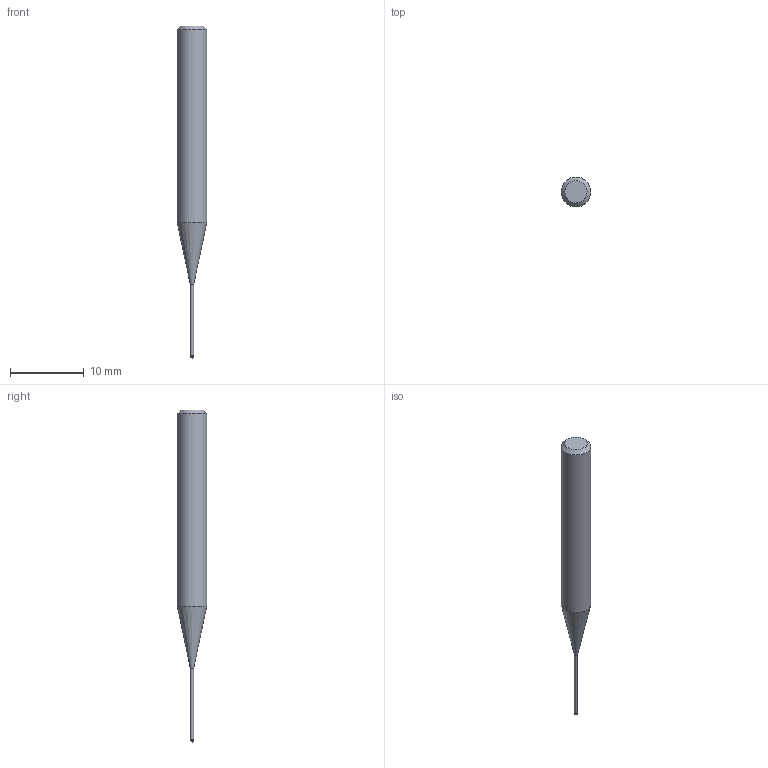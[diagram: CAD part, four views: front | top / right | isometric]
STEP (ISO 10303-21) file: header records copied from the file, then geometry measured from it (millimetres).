
FILE_DESCRIPTION((''),'2;1');
FILE_NAME('C:\Users\nsx150\AppData\Local\Temp\Mastercam 2021\ARV7HD45SN\TEMP.step','2023-06-13T16:33:43',(''),(''),'STEP Write','Mastercam 2021 ... CNC Software, Inc.','');
FILE_SCHEMA(('AUTOMOTIVE_DESIGN'));
Length unit declared in the file: millimetre
Products named in the file (1): None
Bounding box: 4 x 4 x 45 mm (x, y, z)
Volume: 374.8 mm3; surface area: 418.2 mm2
Topology: 2 solids, 2 shells, 9 faces, 14 edges, 8 vertices
Faces by surface type: plane 3, cylinder 3, cone 2, sphere 1
Full cylindrical faces by diameter (mm): 0.46 x1, 0.5 x1, 4 x1
Entity records: 211 total; most frequent: DIRECTION 36, CARTESIAN_POINT 25, AXIS2_PLACEMENT_3D 18, ORIENTED_EDGE 14, EDGE_LOOP 14, STYLED_ITEM 12, ADVANCED_FACE 9, FACE_BOUND 8
